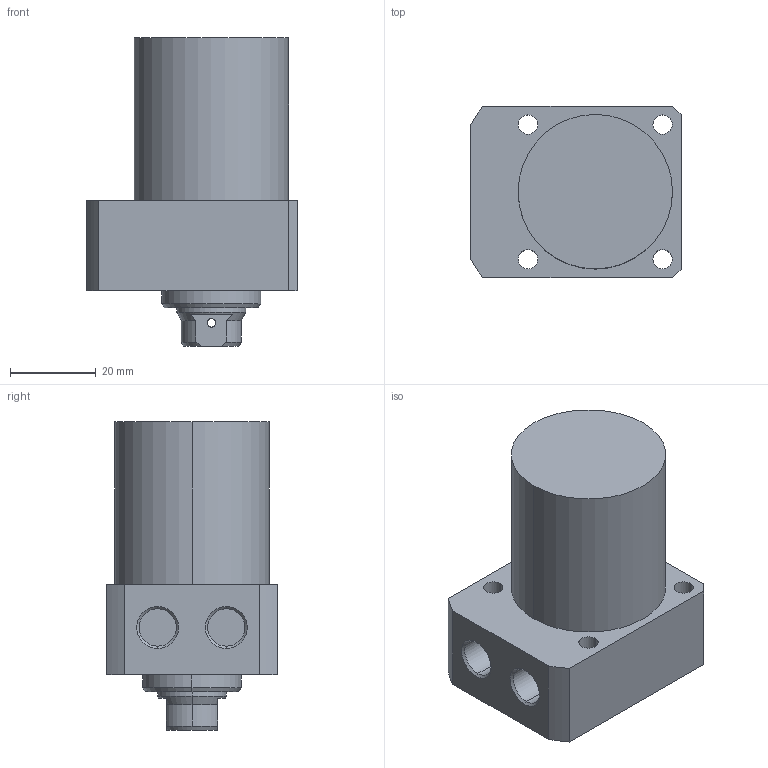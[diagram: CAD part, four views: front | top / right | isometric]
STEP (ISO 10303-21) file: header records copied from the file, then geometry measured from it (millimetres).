
FILE_DESCRIPTION (( 'STEP AP203' ), '1' );
FILE_NAME ('CLLR-036CB-030.STEP', '2019-12-20T00:23:04', ( '' ), ( '' ), 'SwSTEP 2.0', 'SolidWorks 2015', '' );
FILE_SCHEMA (( 'CONFIG_CONTROL_DESIGN' ));
Length unit declared in the file: millimetre
Products named in the file (1): CLLR-036CB-030
Bounding box: 49 x 40 x 72 mm (x, y, z)
Volume: 79360.6 mm3; surface area: 14410.1 mm2
Topology: 1 solids, 1 shells, 67 faces, 161 edges, 102 vertices
Faces by surface type: cylinder 33, plane 19, cone 15
Entity records: 2131 total; most frequent: CARTESIAN_POINT 429, DIRECTION 360, ORIENTED_EDGE 318, EDGE_CURVE 159, AXIS2_PLACEMENT_3D 145, VERTEX_POINT 102, EDGE_LOOP 87, CIRCLE 77
